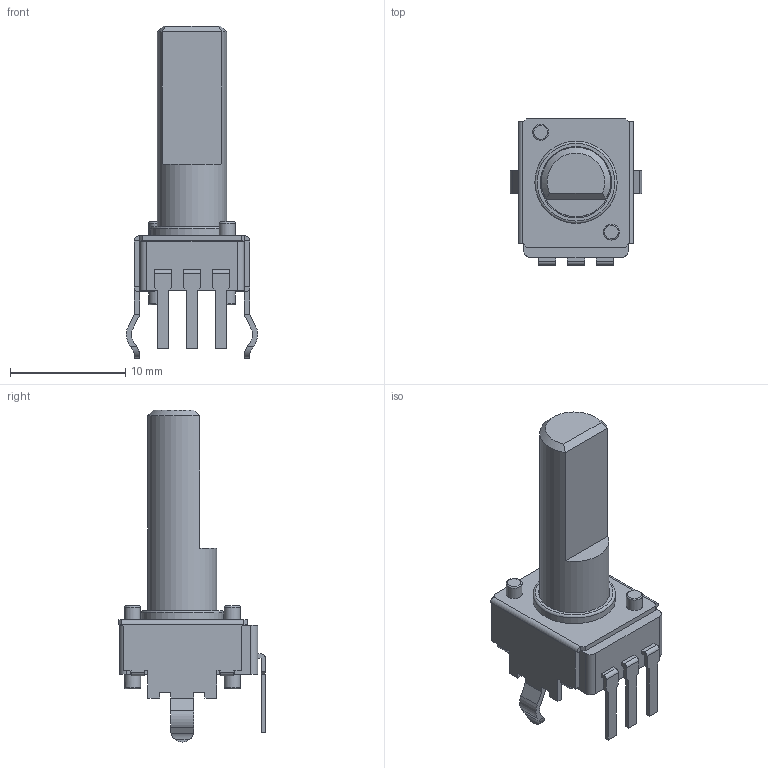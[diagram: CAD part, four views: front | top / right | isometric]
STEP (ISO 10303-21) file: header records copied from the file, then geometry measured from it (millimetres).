
FILE_DESCRIPTION(/* description */ ('Unknown'),/* implementation_level */ '2;1');
FILE_NAME(/* name */ 'PTV09A-4025F-A105',/* time_stamp */ '2024-09-19T12:28:43+02:00',/* author */ ('Unknown'),/* organization */ ('Unknown'),/* preprocessor_version */ 'ST-DEVELOPER v18.102',/* originating_system */ 'Solid Edge',/* authorisation */ 'Unknown');
FILE_SCHEMA (('AUTOMOTIVE_DESIGN {1 0 10303 214 3 1 1}'));
Length unit declared in the file: millimetre
Products named in the file (1): PTV09A-4025F-A105
Bounding box: 11.4 x 12.68 x 28.8 mm (x, y, z)
Volume: 1037.7 mm3; surface area: 1337.9 mm2
Topology: 1 solids, 1 shells, 193 faces, 546 edges, 363 vertices
Faces by surface type: plane 145, cylinder 42, torus 5, cone 1
Full cylindrical faces by diameter (mm): 1.392 x6, 6 x1, 6.186 x1, 7.143 x1
Entity records: 7478 total; most frequent: CARTESIAN_POINT 1105, ORIENTED_EDGE 1050, DIRECTION 1000, EDGE_CURVE 525, LINE 418, VECTOR 418, VERTEX_POINT 356, AXIS2_PLACEMENT_3D 291
